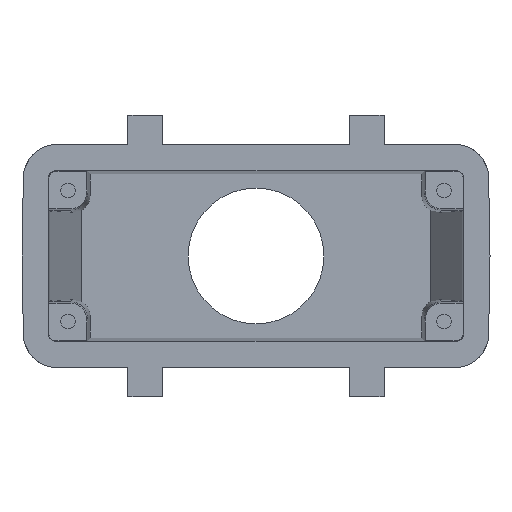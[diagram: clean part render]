
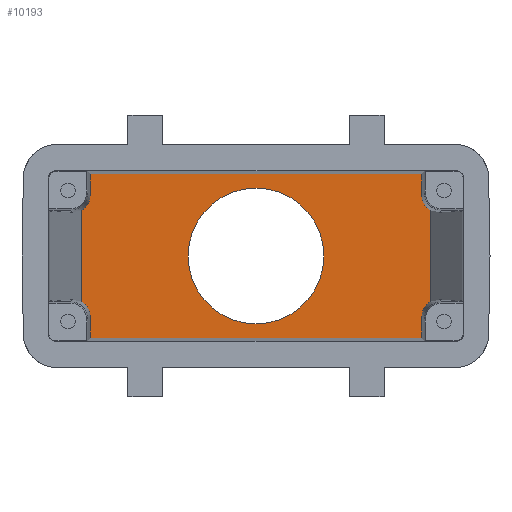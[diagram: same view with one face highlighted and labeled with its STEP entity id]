
A CAD part, front view. The second image highlights one B-rep face of the part: STEP entity #10193.
In plain terms, the highlighted planar face has unit normal (0, -1, 0).
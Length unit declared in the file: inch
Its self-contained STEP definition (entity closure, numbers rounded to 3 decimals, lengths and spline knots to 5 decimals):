
#9457 = EDGE_CURVE ( 'NONE', #62137, #50335, #45838, .T. ) ;
#10193 = ADVANCED_FACE ( 'NONE', ( #13687, #13702 ), #13696, .T. ) ;
#13687 = FACE_BOUND ( 'NONE', #52456, .T. ) ;
#13696 = PLANE ( 'NONE',  #40936 ) ;
#13702 = FACE_OUTER_BOUND ( 'NONE', #50495, .T. ) ;
#13747 = CARTESIAN_POINT ( 'NONE',  ( -2.0625, 3.71316, -0.87866 ) ) ;
#13750 = DIRECTION ( 'NONE',  ( 0., -1., 0. ) ) ;
#13753 = DIRECTION ( 'NONE',  ( 0., 0., 1. ) ) ;
#20696 = EDGE_CURVE ( 'NONE', #40331, #40258, #30618, .T. ) ;
#20697 = EDGE_CURVE ( 'NONE', #40276, #40258, #30621, .T. ) ;
#20698 = EDGE_CURVE ( 'NONE', #40260, #40276, #30610, .T. ) ;
#20699 = EDGE_CURVE ( 'NONE', #40349, #40260, #58281, .T. ) ;
#20716 = EDGE_CURVE ( 'NONE', #40339, #40327, #30725, .T. ) ;
#20784 = EDGE_CURVE ( 'NONE', #40331, #40346, #58284, .T. ) ;
#20786 = EDGE_CURVE ( 'NONE', #50335, #62137, #35071, .T. ) ;
#20787 = EDGE_CURVE ( 'NONE', #40328, #40349, #30987, .T. ) ;
#20792 = EDGE_CURVE ( 'NONE', #40332, #40328, #58288, .T. ) ;
#20795 = EDGE_CURVE ( 'NONE', #40327, #40332, #31014, .T. ) ;
#20797 = EDGE_CURVE ( 'NONE', #40330, #40339, #31027, .T. ) ;
#20799 = EDGE_CURVE ( 'NONE', #40345, #40330, #58289, .T. ) ;
#20802 = EDGE_CURVE ( 'NONE', #40346, #40345, #31040, .T. ) ;
#30610 = LINE ( 'NONE', #30625, #34959 ) ;
#30614 = CARTESIAN_POINT ( 'NONE',  ( -1.92819, 3.71316, -0.3815 ) ) ;
#30618 = LINE ( 'NONE', #30619, #34962 ) ;
#30619 = CARTESIAN_POINT ( 'NONE',  ( 0.79243, 3.71316, -0.36148 ) ) ;
#30620 = DIRECTION ( 'NONE',  ( 0., 0., -1. ) ) ;
#30621 = LINE ( 'NONE', #30623, #34963 ) ;
#30622 = CARTESIAN_POINT ( 'NONE',  ( -1.97396, 3.71316, -0.35684 ) ) ;
#30623 = CARTESIAN_POINT ( 'NONE',  ( -1.74783, 3.71316, -0.65531 ) ) ;
#30624 = DIRECTION ( 'NONE',  ( 1., 0., 0. ) ) ;
#30625 = CARTESIAN_POINT ( 'NONE',  ( -1.90153, 3.71316, -0.36148 ) ) ;
#30626 = DIRECTION ( 'NONE',  ( 0., 0., -1. ) ) ;
#30629 = CARTESIAN_POINT ( 'NONE',  ( -1.90153, 3.71316, -0.42614 ) ) ;
#30630 = CARTESIAN_POINT ( 'NONE',  ( -1.90153, 3.71316, -0.47814 ) ) ;
#30725 = LINE ( 'NONE', #30732, #34982 ) ;
#30732 = CARTESIAN_POINT ( 'NONE',  ( -2.0625, 3.71316, 0.68038 ) ) ;
#30733 = DIRECTION ( 'NONE',  ( -1., 0., 0. ) ) ;
#30966 = CARTESIAN_POINT ( 'NONE',  ( 0.79243, 3.71316, -0.47814 ) ) ;
#30968 = CARTESIAN_POINT ( 'NONE',  ( 0.79243, 3.71316, -0.42614 ) ) ;
#30987 = LINE ( 'NONE', #30988, #35070 ) ;
#30988 = CARTESIAN_POINT ( 'NONE',  ( -1.97396, 3.71316, -0.87866 ) ) ;
#30989 = CARTESIAN_POINT ( 'NONE',  ( 0.81908, 3.71316, -0.3815 ) ) ;
#30990 = CARTESIAN_POINT ( 'NONE',  ( 0.86485, 3.71316, -0.35684 ) ) ;
#30995 = CARTESIAN_POINT ( 'NONE',  ( -0.55455, 3.71316, 0.01254 ) ) ;
#30996 = DIRECTION ( 'NONE',  ( 0., 1., 0. ) ) ;
#30997 = DIRECTION ( 'NONE',  ( 0., 0., -1. ) ) ;
#30998 = DIRECTION ( 'NONE',  ( 0., 0., -1. ) ) ;
#31011 = CARTESIAN_POINT ( 'NONE',  ( -1.90153, 3.71316, 0.50321 ) ) ;
#31014 = LINE ( 'NONE', #31022, #35080 ) ;
#31016 = CARTESIAN_POINT ( 'NONE',  ( -1.90153, 3.71316, 0.45122 ) ) ;
#31017 = CARTESIAN_POINT ( 'NONE',  ( -1.92819, 3.71316, 0.40658 ) ) ;
#31018 = CARTESIAN_POINT ( 'NONE',  ( -1.97396, 3.71316, 0.38191 ) ) ;
#31019 = CARTESIAN_POINT ( 'NONE',  ( 0.81908, 3.71316, 0.40658 ) ) ;
#31022 = CARTESIAN_POINT ( 'NONE',  ( -1.90153, 3.71316, -0.87866 ) ) ;
#31023 = DIRECTION ( 'NONE',  ( 0., 0., -1. ) ) ;
#31027 = LINE ( 'NONE', #31028, #35081 ) ;
#31028 = CARTESIAN_POINT ( 'NONE',  ( 0.79243, 3.71316, -0.87866 ) ) ;
#31029 = DIRECTION ( 'NONE',  ( 0., 0., 1. ) ) ;
#31031 = CARTESIAN_POINT ( 'NONE',  ( 0.86485, 3.71316, 0.38191 ) ) ;
#31035 = CARTESIAN_POINT ( 'NONE',  ( 0.79243, 3.71316, 0.45122 ) ) ;
#31036 = CARTESIAN_POINT ( 'NONE',  ( 0.79243, 3.71316, 0.50321 ) ) ;
#31040 = LINE ( 'NONE', #31045, #35085 ) ;
#31045 = CARTESIAN_POINT ( 'NONE',  ( 0.86485, 3.71316, -0.87866 ) ) ;
#31046 = DIRECTION ( 'NONE',  ( 0., 0., 1. ) ) ;
#34959 = VECTOR ( 'NONE', #30626, 39.37008 ) ;
#34962 = VECTOR ( 'NONE', #30620, 39.37008 ) ;
#34963 = VECTOR ( 'NONE', #30624, 39.37008 ) ;
#34982 = VECTOR ( 'NONE', #30733, 39.37008 ) ;
#35070 = VECTOR ( 'NONE', #30998, 39.37008 ) ;
#35071 = CIRCLE ( 'NONE', #35073, 0.55118 ) ;
#35073 = AXIS2_PLACEMENT_3D ( 'NONE', #30995, #30996, #30997 ) ;
#35080 = VECTOR ( 'NONE', #31023, 39.37008 ) ;
#35081 = VECTOR ( 'NONE', #31029, 39.37008 ) ;
#35085 = VECTOR ( 'NONE', #31046, 39.37008 ) ;
#40258 = VERTEX_POINT ( 'NONE', #60204 ) ;
#40260 = VERTEX_POINT ( 'NONE', #60263 ) ;
#40276 = VERTEX_POINT ( 'NONE', #60217 ) ;
#40327 = VERTEX_POINT ( 'NONE', #60365 ) ;
#40328 = VERTEX_POINT ( 'NONE', #60367 ) ;
#40330 = VERTEX_POINT ( 'NONE', #60369 ) ;
#40331 = VERTEX_POINT ( 'NONE', #60371 ) ;
#40332 = VERTEX_POINT ( 'NONE', #60372 ) ;
#40339 = VERTEX_POINT ( 'NONE', #60383 ) ;
#40345 = VERTEX_POINT ( 'NONE', #60395 ) ;
#40346 = VERTEX_POINT ( 'NONE', #60397 ) ;
#40349 = VERTEX_POINT ( 'NONE', #60401 ) ;
#40936 = AXIS2_PLACEMENT_3D ( 'NONE', #13747, #13750, #13753 ) ;
#45810 = AXIS2_PLACEMENT_3D ( 'NONE', #52336, #52338, #52340 ) ;
#45838 = CIRCLE ( 'NONE', #45810, 0.55118 ) ;
#50335 = VERTEX_POINT ( 'NONE', #61008 ) ;
#50495 = EDGE_LOOP ( 'NONE', ( #64062, #64063, #64064, #64065, #64066, #64067, #64068, #64069, #64070, #64071, #64072, #64073 ) ) ;
#52336 = CARTESIAN_POINT ( 'NONE',  ( -0.55455, 3.71316, 0.01254 ) ) ;
#52338 = DIRECTION ( 'NONE',  ( 0., 1., 0. ) ) ;
#52340 = DIRECTION ( 'NONE',  ( 0., 0., -1. ) ) ;
#52456 = EDGE_LOOP ( 'NONE', ( #64060, #64061 ) ) ;
#57534 = CARTESIAN_POINT ( 'NONE',  ( -0.55455, 3.71316, 0.56372 ) ) ;
#58281 =( BOUNDED_CURVE ( )  B_SPLINE_CURVE ( 3, ( #30622, #30614, #30629, #30630 ),
 .UNSPECIFIED., .F., .T. ) 
 B_SPLINE_CURVE_WITH_KNOTS ( ( 4, 4 ),
 ( 5.99206, 7.06855 ),
 .UNSPECIFIED. ) 
 CURVE ( )  GEOMETRIC_REPRESENTATION_ITEM ( )  RATIONAL_B_SPLINE_CURVE ( ( 1., 0.906, 0.906, 1. ) ) 
 REPRESENTATION_ITEM ( '' )  );
#58284 =( BOUNDED_CURVE ( )  B_SPLINE_CURVE ( 3, ( #30966, #30968, #30989, #30990 ),
 .UNSPECIFIED., .F., .T. ) 
 B_SPLINE_CURVE_WITH_KNOTS ( ( 4, 4 ),
 ( 2.35623, 3.43272 ),
 .UNSPECIFIED. ) 
 CURVE ( )  GEOMETRIC_REPRESENTATION_ITEM ( )  RATIONAL_B_SPLINE_CURVE ( ( 1., 0.906, 0.906, 1. ) ) 
 REPRESENTATION_ITEM ( '' )  );
#58288 =( BOUNDED_CURVE ( )  B_SPLINE_CURVE ( 3, ( #31011, #31016, #31017, #31018 ),
 .UNSPECIFIED., .F., .T. ) 
 B_SPLINE_CURVE_WITH_KNOTS ( ( 4, 4 ),
 ( 2.35623, 3.43272 ),
 .UNSPECIFIED. ) 
 CURVE ( )  GEOMETRIC_REPRESENTATION_ITEM ( )  RATIONAL_B_SPLINE_CURVE ( ( 1., 0.906, 0.906, 1. ) ) 
 REPRESENTATION_ITEM ( '' )  );
#58289 =( BOUNDED_CURVE ( )  B_SPLINE_CURVE ( 3, ( #31031, #31019, #31035, #31036 ),
 .UNSPECIFIED., .F., .T. ) 
 B_SPLINE_CURVE_WITH_KNOTS ( ( 4, 4 ),
 ( 5.99206, 7.06855 ),
 .UNSPECIFIED. ) 
 CURVE ( )  GEOMETRIC_REPRESENTATION_ITEM ( )  RATIONAL_B_SPLINE_CURVE ( ( 1., 0.906, 0.906, 1. ) ) 
 REPRESENTATION_ITEM ( '' )  );
#60204 = CARTESIAN_POINT ( 'NONE',  ( 0.79243, 3.71316, -0.65531 ) ) ;
#60217 = CARTESIAN_POINT ( 'NONE',  ( -1.90153, 3.71316, -0.65531 ) ) ;
#60263 = CARTESIAN_POINT ( 'NONE',  ( -1.90153, 3.71316, -0.47814 ) ) ;
#60365 = CARTESIAN_POINT ( 'NONE',  ( -1.90153, 3.71316, 0.68038 ) ) ;
#60367 = CARTESIAN_POINT ( 'NONE',  ( -1.97396, 3.71316, 0.38191 ) ) ;
#60369 = CARTESIAN_POINT ( 'NONE',  ( 0.79243, 3.71316, 0.50321 ) ) ;
#60371 = CARTESIAN_POINT ( 'NONE',  ( 0.79243, 3.71316, -0.47814 ) ) ;
#60372 = CARTESIAN_POINT ( 'NONE',  ( -1.90153, 3.71316, 0.50321 ) ) ;
#60383 = CARTESIAN_POINT ( 'NONE',  ( 0.79243, 3.71316, 0.68038 ) ) ;
#60395 = CARTESIAN_POINT ( 'NONE',  ( 0.86485, 3.71316, 0.38191 ) ) ;
#60397 = CARTESIAN_POINT ( 'NONE',  ( 0.86485, 3.71316, -0.35684 ) ) ;
#60401 = CARTESIAN_POINT ( 'NONE',  ( -1.97396, 3.71316, -0.35684 ) ) ;
#61008 = CARTESIAN_POINT ( 'NONE',  ( -0.55455, 3.71316, -0.53864 ) ) ;
#62137 = VERTEX_POINT ( 'NONE', #57534 ) ;
#64060 = ORIENTED_EDGE ( 'NONE', *, *, #20786, .T. ) ;
#64061 = ORIENTED_EDGE ( 'NONE', *, *, #9457, .T. ) ;
#64062 = ORIENTED_EDGE ( 'NONE', *, *, #20792, .T. ) ;
#64063 = ORIENTED_EDGE ( 'NONE', *, *, #20787, .T. ) ;
#64064 = ORIENTED_EDGE ( 'NONE', *, *, #20699, .T. ) ;
#64065 = ORIENTED_EDGE ( 'NONE', *, *, #20698, .T. ) ;
#64066 = ORIENTED_EDGE ( 'NONE', *, *, #20697, .T. ) ;
#64067 = ORIENTED_EDGE ( 'NONE', *, *, #20696, .F. ) ;
#64068 = ORIENTED_EDGE ( 'NONE', *, *, #20784, .T. ) ;
#64069 = ORIENTED_EDGE ( 'NONE', *, *, #20802, .T. ) ;
#64070 = ORIENTED_EDGE ( 'NONE', *, *, #20799, .T. ) ;
#64071 = ORIENTED_EDGE ( 'NONE', *, *, #20797, .T. ) ;
#64072 = ORIENTED_EDGE ( 'NONE', *, *, #20716, .T. ) ;
#64073 = ORIENTED_EDGE ( 'NONE', *, *, #20795, .T. ) ;
